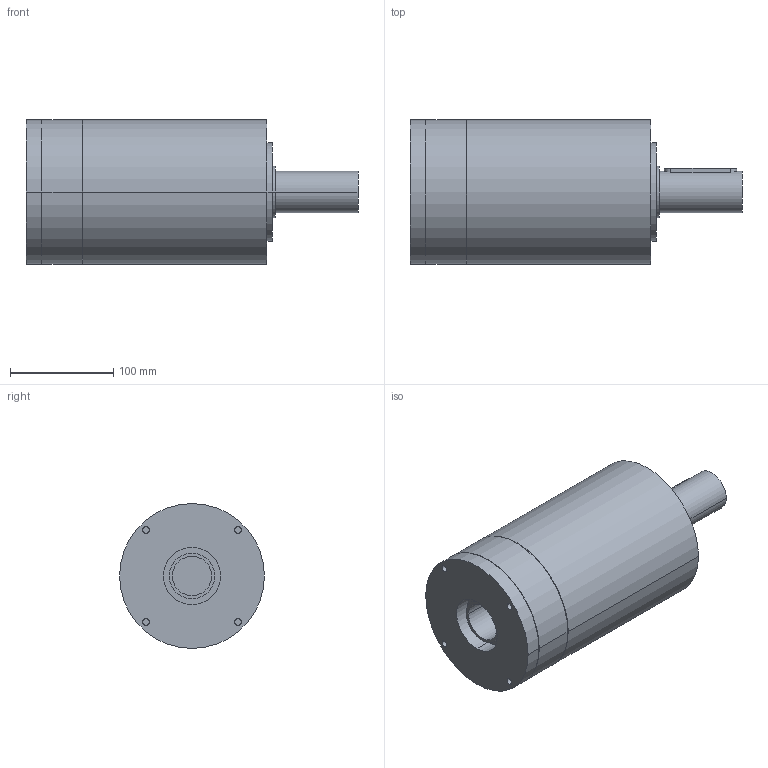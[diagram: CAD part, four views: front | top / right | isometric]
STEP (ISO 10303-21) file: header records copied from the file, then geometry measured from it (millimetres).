
FILE_DESCRIPTION(('CoCreate Modeling STEP Export'),'2;1');
FILE_NAME('GPR150_ig-9-12-16-20-28-35_40_B14_38_P01.stp','2014-08-19T17:04:28',(''),(''),'CoCreate Modeling STEP processor for AP214 (Solid Model)','CoCreate Modeling 16.00C 25-Feb-2009 (C) Parametric Technology GmbH','');
FILE_SCHEMA(('AUTOMOTIVE_DESIGN { 1 0 10303 214 1 1 1 1 }'));
Length unit declared in the file: millimetre
Products named in the file (2): GPR150_ig-9-12-16-20-28-35_40_B14_38_P01
Assembly tree (1 placements, depth 2):
  GPR150_ig-9-12-16-20-28-35_40_B14_38_P01
    GPR150_ig-9-12-16-20-28-35_40_B14_38_P01
Bounding box: 321 x 140 x 140 mm (x, y, z)
Volume: 3602454.4 mm3; surface area: 166088.8 mm2
Topology: 1 solids, 1 shells, 77 faces, 191 edges, 135 vertices
Faces by surface type: cylinder 46, plane 25, cone 6
Entity records: 1960 total; most frequent: CARTESIAN_POINT 378, ORIENTED_EDGE 378, DIRECTION 252, EDGE_CURVE 189, VERTEX_POINT 135, EDGE_LOOP 98, AXIS2_PLACEMENT_3D 97, FACE_OUTER_BOUND 77
